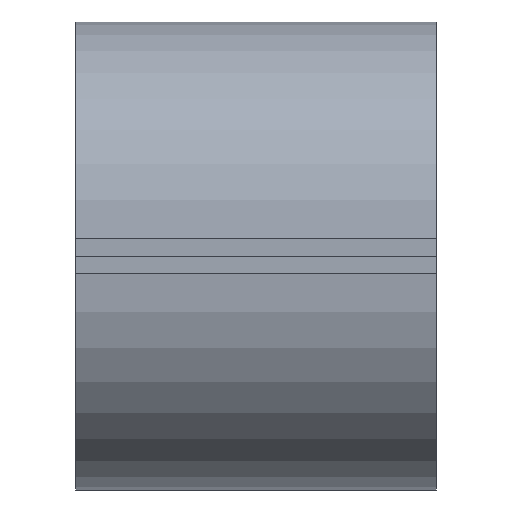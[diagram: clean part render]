
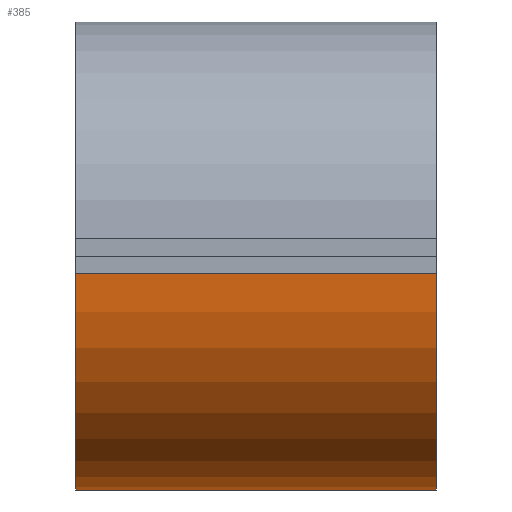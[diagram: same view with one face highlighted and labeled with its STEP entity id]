
A CAD part, left-side view. The second image highlights one B-rep face of the part: STEP entity #385.
In plain terms, the highlighted cylindrical face has radius 1.2 mm (diameter 2.4 mm), a partial arc.
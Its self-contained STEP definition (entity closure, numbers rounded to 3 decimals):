
#24 = VERTEX_POINT('',#25);
#25 = CARTESIAN_POINT('',(19.1,-12.3,-7.4));
#32 = PLANE('',#33);
#33 = AXIS2_PLACEMENT_3D('',#34,#35,#36);
#34 = CARTESIAN_POINT('',(19.1,-12.3,-7.2));
#35 = DIRECTION('',(-1.,0.,-0.));
#36 = DIRECTION('',(0.,0.,-1.));
#44 = PLANE('',#45);
#45 = AXIS2_PLACEMENT_3D('',#46,#47,#48);
#46 = CARTESIAN_POINT('',(22.,-12.3,-7.3));
#47 = DIRECTION('',(0.,1.,0.));
#48 = DIRECTION('',(1.,0.,0.));
#83 = VERTEX_POINT('',#84);
#84 = CARTESIAN_POINT('',(19.1,-10.3,-7.4));
#98 = PLANE('',#99);
#99 = AXIS2_PLACEMENT_3D('',#100,#101,#102);
#100 = CARTESIAN_POINT('',(22.,-10.3,-7.3));
#101 = DIRECTION('',(0.,1.,0.));
#102 = DIRECTION('',(1.,0.,0.));
#110 = EDGE_CURVE('',#24,#83,#111,.T.);
#111 = SURFACE_CURVE('',#112,(#116,#123),.PCURVE_S1.);
#112 = LINE('',#113,#114);
#113 = CARTESIAN_POINT('',(19.1,-12.3,-7.4));
#114 = VECTOR('',#115,1.);
#115 = DIRECTION('',(-0.,1.,0.));
#116 = PCURVE('',#32,#117);
#117 = DEFINITIONAL_REPRESENTATION('',(#118),#122);
#118 = LINE('',#119,#120);
#119 = CARTESIAN_POINT('',(0.2,0.));
#120 = VECTOR('',#121,1.);
#121 = DIRECTION('',(0.,-1.));
#122 = ( GEOMETRIC_REPRESENTATION_CONTEXT(2) 
PARAMETRIC_REPRESENTATION_CONTEXT() REPRESENTATION_CONTEXT('2D SPACE',''
  ) );
#123 = PCURVE('',#124,#129);
#124 = CYLINDRICAL_SURFACE('',#125,1.2);
#125 = AXIS2_PLACEMENT_3D('',#126,#127,#128);
#126 = CARTESIAN_POINT('',(20.3,-12.3,-7.4));
#127 = DIRECTION('',(-0.,-1.,-0.));
#128 = DIRECTION('',(-1.,0.,0.));
#129 = DEFINITIONAL_REPRESENTATION('',(#130),#134);
#130 = LINE('',#131,#132);
#131 = CARTESIAN_POINT('',(0.,0.));
#132 = VECTOR('',#133,1.);
#133 = DIRECTION('',(0.,-1.));
#134 = ( GEOMETRIC_REPRESENTATION_CONTEXT(2) 
PARAMETRIC_REPRESENTATION_CONTEXT() REPRESENTATION_CONTEXT('2D SPACE',''
  ) );
#333 = VERTEX_POINT('',#334);
#334 = CARTESIAN_POINT('',(20.3,-12.3,-8.6));
#348 = PLANE('',#349);
#349 = AXIS2_PLACEMENT_3D('',#350,#351,#352);
#350 = CARTESIAN_POINT('',(20.3,-12.3,-8.6));
#351 = DIRECTION('',(0.,0.,-1.));
#352 = DIRECTION('',(1.,0.,0.));
#360 = EDGE_CURVE('',#24,#333,#361,.T.);
#361 = SURFACE_CURVE('',#362,(#367,#378),.PCURVE_S1.);
#362 = CIRCLE('',#363,1.2);
#363 = AXIS2_PLACEMENT_3D('',#364,#365,#366);
#364 = CARTESIAN_POINT('',(20.3,-12.3,-7.4));
#365 = DIRECTION('',(-0.,-1.,-0.));
#366 = DIRECTION('',(-1.,0.,0.));
#367 = PCURVE('',#44,#368);
#368 = DEFINITIONAL_REPRESENTATION('',(#369),#377);
#369 = ( BOUNDED_CURVE() B_SPLINE_CURVE(2,(#370,#371,#372,#373,#374,#375
,#376),.UNSPECIFIED.,.T.,.F.) B_SPLINE_CURVE_WITH_KNOTS((1,2,2,2,2,1),(
    -2.094,0.,2.094,4.189,6.283,
8.378),.UNSPECIFIED.) CURVE() GEOMETRIC_REPRESENTATION_ITEM() 
RATIONAL_B_SPLINE_CURVE((1.,0.5,1.,0.5,1.,0.5,1.)) REPRESENTATION_ITEM(
  '') );
#370 = CARTESIAN_POINT('',(-2.9,0.1));
#371 = CARTESIAN_POINT('',(-2.9,2.178));
#372 = CARTESIAN_POINT('',(-1.1,1.139));
#373 = CARTESIAN_POINT('',(0.7,0.1));
#374 = CARTESIAN_POINT('',(-1.1,-0.939));
#375 = CARTESIAN_POINT('',(-2.9,-1.978));
#376 = CARTESIAN_POINT('',(-2.9,0.1));
#377 = ( GEOMETRIC_REPRESENTATION_CONTEXT(2) 
PARAMETRIC_REPRESENTATION_CONTEXT() REPRESENTATION_CONTEXT('2D SPACE',''
  ) );
#378 = PCURVE('',#124,#379);
#379 = DEFINITIONAL_REPRESENTATION('',(#380),#384);
#380 = LINE('',#381,#382);
#381 = CARTESIAN_POINT('',(0.,0.));
#382 = VECTOR('',#383,1.);
#383 = DIRECTION('',(1.,0.));
#384 = ( GEOMETRIC_REPRESENTATION_CONTEXT(2) 
PARAMETRIC_REPRESENTATION_CONTEXT() REPRESENTATION_CONTEXT('2D SPACE',''
  ) );
#385 = ADVANCED_FACE('',(#386),#124,.T.);
#386 = FACE_BOUND('',#387,.T.);
#387 = EDGE_LOOP('',(#388,#389,#417,#438));
#388 = ORIENTED_EDGE('',*,*,#110,.T.);
#389 = ORIENTED_EDGE('',*,*,#390,.T.);
#390 = EDGE_CURVE('',#83,#391,#393,.T.);
#391 = VERTEX_POINT('',#392);
#392 = CARTESIAN_POINT('',(20.3,-10.3,-8.6));
#393 = SURFACE_CURVE('',#394,(#399,#406),.PCURVE_S1.);
#394 = CIRCLE('',#395,1.2);
#395 = AXIS2_PLACEMENT_3D('',#396,#397,#398);
#396 = CARTESIAN_POINT('',(20.3,-10.3,-7.4));
#397 = DIRECTION('',(-0.,-1.,-0.));
#398 = DIRECTION('',(-1.,0.,0.));
#399 = PCURVE('',#124,#400);
#400 = DEFINITIONAL_REPRESENTATION('',(#401),#405);
#401 = LINE('',#402,#403);
#402 = CARTESIAN_POINT('',(0.,-2.));
#403 = VECTOR('',#404,1.);
#404 = DIRECTION('',(1.,0.));
#405 = ( GEOMETRIC_REPRESENTATION_CONTEXT(2) 
PARAMETRIC_REPRESENTATION_CONTEXT() REPRESENTATION_CONTEXT('2D SPACE',''
  ) );
#406 = PCURVE('',#98,#407);
#407 = DEFINITIONAL_REPRESENTATION('',(#408),#416);
#408 = ( BOUNDED_CURVE() B_SPLINE_CURVE(2,(#409,#410,#411,#412,#413,#414
,#415),.UNSPECIFIED.,.T.,.F.) B_SPLINE_CURVE_WITH_KNOTS((1,2,2,2,2,1),(
    -2.094,0.,2.094,4.189,6.283,
8.378),.UNSPECIFIED.) CURVE() GEOMETRIC_REPRESENTATION_ITEM() 
RATIONAL_B_SPLINE_CURVE((1.,0.5,1.,0.5,1.,0.5,1.)) REPRESENTATION_ITEM(
  '') );
#409 = CARTESIAN_POINT('',(-2.9,0.1));
#410 = CARTESIAN_POINT('',(-2.9,2.178));
#411 = CARTESIAN_POINT('',(-1.1,1.139));
#412 = CARTESIAN_POINT('',(0.7,0.1));
#413 = CARTESIAN_POINT('',(-1.1,-0.939));
#414 = CARTESIAN_POINT('',(-2.9,-1.978));
#415 = CARTESIAN_POINT('',(-2.9,0.1));
#416 = ( GEOMETRIC_REPRESENTATION_CONTEXT(2) 
PARAMETRIC_REPRESENTATION_CONTEXT() REPRESENTATION_CONTEXT('2D SPACE',''
  ) );
#417 = ORIENTED_EDGE('',*,*,#418,.F.);
#418 = EDGE_CURVE('',#333,#391,#419,.T.);
#419 = SURFACE_CURVE('',#420,(#424,#431),.PCURVE_S1.);
#420 = LINE('',#421,#422);
#421 = CARTESIAN_POINT('',(20.3,-12.3,-8.6));
#422 = VECTOR('',#423,1.);
#423 = DIRECTION('',(-0.,1.,0.));
#424 = PCURVE('',#124,#425);
#425 = DEFINITIONAL_REPRESENTATION('',(#426),#430);
#426 = LINE('',#427,#428);
#427 = CARTESIAN_POINT('',(1.571,0.));
#428 = VECTOR('',#429,1.);
#429 = DIRECTION('',(0.,-1.));
#430 = ( GEOMETRIC_REPRESENTATION_CONTEXT(2) 
PARAMETRIC_REPRESENTATION_CONTEXT() REPRESENTATION_CONTEXT('2D SPACE',''
  ) );
#431 = PCURVE('',#348,#432);
#432 = DEFINITIONAL_REPRESENTATION('',(#433),#437);
#433 = LINE('',#434,#435);
#434 = CARTESIAN_POINT('',(0.,0.));
#435 = VECTOR('',#436,1.);
#436 = DIRECTION('',(0.,-1.));
#437 = ( GEOMETRIC_REPRESENTATION_CONTEXT(2) 
PARAMETRIC_REPRESENTATION_CONTEXT() REPRESENTATION_CONTEXT('2D SPACE',''
  ) );
#438 = ORIENTED_EDGE('',*,*,#360,.F.);
